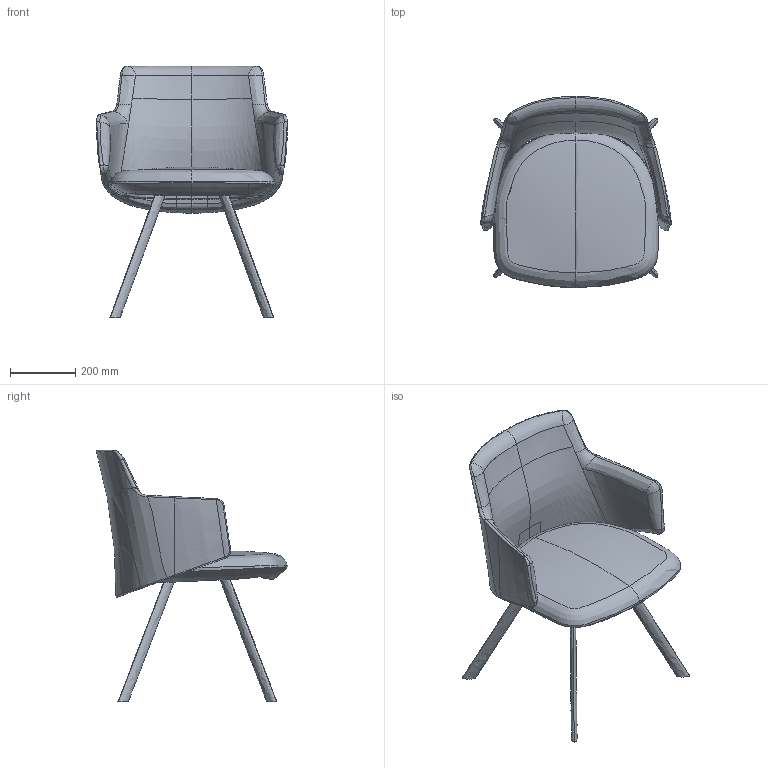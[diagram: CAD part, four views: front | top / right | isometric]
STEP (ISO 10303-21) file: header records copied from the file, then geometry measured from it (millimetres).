
FILE_DESCRIPTION(/* description */ (''),/* implementation_level */ '2;1');
FILE_NAME(/* name */ 'MELODY~1',/* time_stamp */ '2019-06-24T11:32:05+02:00',/* author */ (''),/* organization */ (''),/* preprocessor_version */ 'ST-DEVELOPER v15',/* originating_system */ '',/* authorisation */ '');
FILE_SCHEMA (('AUTOMOTIVE_DESIGN'));
Length unit declared in the file: millimetre
Products named in the file (1): Document
Bounding box: 583.87 x 585.29 x 770.47 mm (x, y, z)
Volume: 183079.5 mm3; surface area: 1600597 mm2
Topology: 1 solids, 7 shells, 141 faces, 436 edges, 262 vertices
Faces by surface type: bspline 126, plane 15
Entity records: 54269 total; most frequent: CARTESIAN_POINT 51721, ORIENTED_EDGE 763, EDGE_CURVE 436, B_SPLINE_CURVE_WITH_KNOTS 396, VERTEX_POINT 262, EDGE_LOOP 149, ADVANCED_FACE 141, FACE_OUTER_BOUND 141
